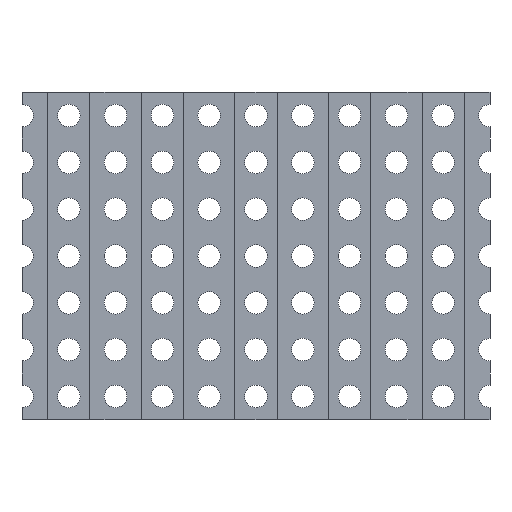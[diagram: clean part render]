
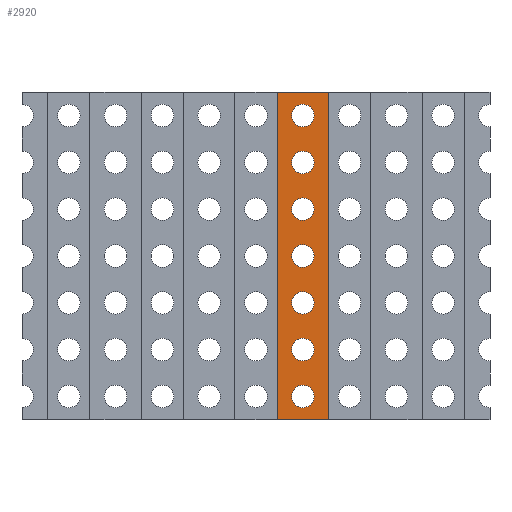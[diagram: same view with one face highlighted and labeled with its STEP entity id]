
A CAD part, front view. The second image highlights one B-rep face of the part: STEP entity #2920.
In plain terms, the highlighted planar face has unit normal (0, -1, 0).
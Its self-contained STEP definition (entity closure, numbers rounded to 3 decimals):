
#29=FACE_BOUND('',#454,.T.);
#30=FACE_BOUND('',#455,.T.);
#31=FACE_BOUND('',#456,.T.);
#32=FACE_BOUND('',#457,.T.);
#33=FACE_BOUND('',#458,.T.);
#34=FACE_BOUND('',#459,.T.);
#35=FACE_BOUND('',#460,.T.);
#165=PLANE('',#3213);
#302=FACE_OUTER_BOUND('',#453,.T.);
#453=EDGE_LOOP('',(#2406,#2407,#2408,#2409));
#454=EDGE_LOOP('',(#2410));
#455=EDGE_LOOP('',(#2411));
#456=EDGE_LOOP('',(#2412));
#457=EDGE_LOOP('',(#2413));
#458=EDGE_LOOP('',(#2414));
#459=EDGE_LOOP('',(#2415));
#460=EDGE_LOOP('',(#2416));
#742=LINE('',#4678,#993);
#759=LINE('',#4714,#1010);
#760=LINE('',#4716,#1011);
#761=LINE('',#4717,#1012);
#993=VECTOR('',#3892,10.);
#1010=VECTOR('',#3921,10.);
#1011=VECTOR('',#3922,10.);
#1012=VECTOR('',#3923,10.);
#1129=CIRCLE('',#2997,1.2);
#1136=CIRCLE('',#3009,1.2);
#1161=CIRCLE('',#3055,1.2);
#1174=CIRCLE('',#3076,1.2);
#1202=CIRCLE('',#3119,1.2);
#1218=CIRCLE('',#3145,1.2);
#1248=CIRCLE('',#3192,1.2);
#1310=VERTEX_POINT('',#4214);
#1319=VERTEX_POINT('',#4242);
#1351=VERTEX_POINT('',#4348);
#1366=VERTEX_POINT('',#4394);
#1400=VERTEX_POINT('',#4494);
#1416=VERTEX_POINT('',#4546);
#1446=VERTEX_POINT('',#4640);
#1456=VERTEX_POINT('',#4672);
#1458=VERTEX_POINT('',#4676);
#1471=VERTEX_POINT('',#4713);
#1472=VERTEX_POINT('',#4715);
#1591=EDGE_CURVE('',#1310,#1310,#1129,.T.);
#1605=EDGE_CURVE('',#1319,#1319,#1136,.T.);
#1658=EDGE_CURVE('',#1351,#1351,#1161,.T.);
#1681=EDGE_CURVE('',#1366,#1366,#1174,.T.);
#1732=EDGE_CURVE('',#1400,#1400,#1202,.T.);
#1758=EDGE_CURVE('',#1416,#1416,#1218,.T.);
#1805=EDGE_CURVE('',#1446,#1446,#1248,.T.);
#1822=EDGE_CURVE('',#1456,#1458,#742,.T.);
#1839=EDGE_CURVE('',#1471,#1458,#759,.T.);
#1840=EDGE_CURVE('',#1472,#1471,#760,.T.);
#1841=EDGE_CURVE('',#1472,#1456,#761,.T.);
#2406=ORIENTED_EDGE('',*,*,#1839,.F.);
#2407=ORIENTED_EDGE('',*,*,#1840,.F.);
#2408=ORIENTED_EDGE('',*,*,#1841,.T.);
#2409=ORIENTED_EDGE('',*,*,#1822,.T.);
#2410=ORIENTED_EDGE('',*,*,#1591,.T.);
#2411=ORIENTED_EDGE('',*,*,#1605,.T.);
#2412=ORIENTED_EDGE('',*,*,#1658,.T.);
#2413=ORIENTED_EDGE('',*,*,#1681,.T.);
#2414=ORIENTED_EDGE('',*,*,#1732,.T.);
#2415=ORIENTED_EDGE('',*,*,#1758,.T.);
#2416=ORIENTED_EDGE('',*,*,#1805,.T.);
#2920=ADVANCED_FACE('',(#302,#29,#30,#31,#32,#33,#34,#35),#165,.T.);
#2997=AXIS2_PLACEMENT_3D('',#4216,#3367,#3368);
#3009=AXIS2_PLACEMENT_3D('',#4244,#3398,#3399);
#3055=AXIS2_PLACEMENT_3D('',#4350,#3518,#3519);
#3076=AXIS2_PLACEMENT_3D('',#4396,#3570,#3571);
#3119=AXIS2_PLACEMENT_3D('',#4496,#3679,#3680);
#3145=AXIS2_PLACEMENT_3D('',#4548,#3741,#3742);
#3192=AXIS2_PLACEMENT_3D('',#4642,#3852,#3853);
#3213=AXIS2_PLACEMENT_3D('',#4712,#3919,#3920);
#3367=DIRECTION('center_axis',(0.,1.,0.));
#3368=DIRECTION('ref_axis',(0.,0.,
-1.));
#3398=DIRECTION('center_axis',(0.,1.,0.));
#3399=DIRECTION('ref_axis',(0.,0.,
-1.));
#3518=DIRECTION('center_axis',(0.,1.,0.));
#3519=DIRECTION('ref_axis',(0.,0.,
-1.));
#3570=DIRECTION('center_axis',(0.,1.,0.));
#3571=DIRECTION('ref_axis',(0.,0.,
-1.));
#3679=DIRECTION('center_axis',(0.,1.,0.));
#3680=DIRECTION('ref_axis',(0.,0.,
-1.));
#3741=DIRECTION('center_axis',(0.,1.,0.));
#3742=DIRECTION('ref_axis',(0.,0.,
-1.));
#3852=DIRECTION('center_axis',(0.,1.,0.));
#3853=DIRECTION('ref_axis',(0.,0.,
-1.));
#3892=DIRECTION('',(0.,0.,1.));
#3919=DIRECTION('center_axis',(0.,-1.,0.));
#3920=DIRECTION('ref_axis',(0.,0.,-1.));
#3921=DIRECTION('',(1.,0.,0.));
#3922=DIRECTION('',(0.,0.,1.));
#3923=DIRECTION('',(1.,0.,0.));
#4214=CARTESIAN_POINT('',(25.,-3.,33.7));
#4216=CARTESIAN_POINT('Origin',(25.,-3.,32.5));
#4242=CARTESIAN_POINT('',(25.,-3.,28.7));
#4244=CARTESIAN_POINT('Origin',(25.,-3.,27.5));
#4348=CARTESIAN_POINT('',(25.,-3.,8.7));
#4350=CARTESIAN_POINT('Origin',(25.,-3.,7.5));
#4394=CARTESIAN_POINT('',(25.,-3.,3.7));
#4396=CARTESIAN_POINT('Origin',(25.,-3.,2.5));
#4494=CARTESIAN_POINT('',(25.,-3.,13.7));
#4496=CARTESIAN_POINT('Origin',(25.,-3.,12.5));
#4546=CARTESIAN_POINT('',(25.,-3.,23.7));
#4548=CARTESIAN_POINT('Origin',(25.,-3.,22.5));
#4640=CARTESIAN_POINT('',(25.,-3.,18.7));
#4642=CARTESIAN_POINT('Origin',(25.,-3.,17.5));
#4672=CARTESIAN_POINT('',(27.75,-3.,0.));
#4676=CARTESIAN_POINT('',(27.75,-3.,35.));
#4678=CARTESIAN_POINT('',(27.75,-3.,0.));
#4712=CARTESIAN_POINT('Origin',(22.25,-3.,35.));
#4713=CARTESIAN_POINT('',(22.25,-3.,35.));
#4714=CARTESIAN_POINT('',(22.25,-3.,35.));
#4715=CARTESIAN_POINT('',(22.25,-3.,0.));
#4716=CARTESIAN_POINT('',(22.25,-3.,0.));
#4717=CARTESIAN_POINT('',(22.25,-3.,0.));
